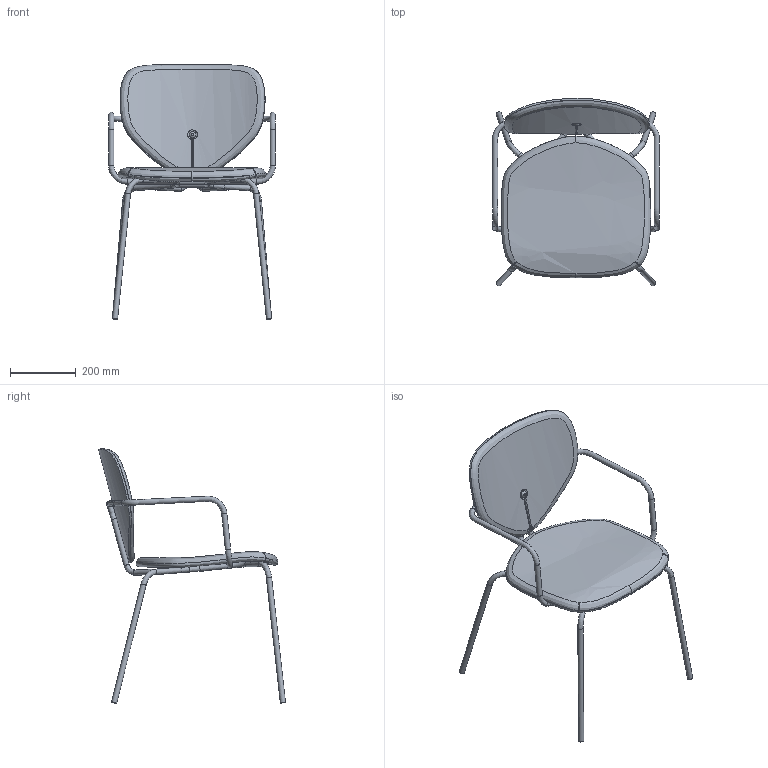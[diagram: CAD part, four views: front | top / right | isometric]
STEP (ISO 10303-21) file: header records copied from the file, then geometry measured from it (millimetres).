
FILE_DESCRIPTION(/* description */ (''),/* implementation_level */ '2;1');
FILE_NAME(/* name */ 'MARIETTA - FAMILY - 3D silla TAPIZADA.step',/* time_stamp */ '2023-06-13T09:40:35+02:00',/* author */ (''),/* organization */ (''),/* preprocessor_version */ 'ST-DEVELOPER v19.2',/* originating_system */ 'Autodesk Translation Framework v12.6.0.85',/* authorisation */ '');
FILE_SCHEMA (('AUTOMOTIVE_DESIGN { 1 0 10303 214 3 1 1 }'));
Products named in the file (4): Marietta silla tapizada; MARIETTA - FAMILY - 3D; asiento silla Marietta; respaldo silla v4 Marietta con tapizado
Assembly tree (3 placements, depth 2):
  Marietta silla tapizada
    MARIETTA - FAMILY - 3D
    asiento silla Marietta
    respaldo silla v4 Marietta con tapizado
Bounding box: 507.92 x 569.58 x 775.41 mm (x, y, z)
Volume: 8630148.5 mm3; surface area: 1195937.2 mm2
Topology: 20 solids, 20 shells, 145 faces, 291 edges, 185 vertices
Faces by surface type: bspline 63, cylinder 41, plane 41
Full cylindrical faces by diameter (mm): 16 x19, 18 x2, 20 x1
Entity records: 35005 total; most frequent: CARTESIAN_POINT 32196, ORIENTED_EDGE 580, DIRECTION 484, EDGE_CURVE 290, AXIS2_PLACEMENT_3D 210, VERTEX_POINT 185, FACE_OUTER_BOUND 145, EDGE_LOOP 145
